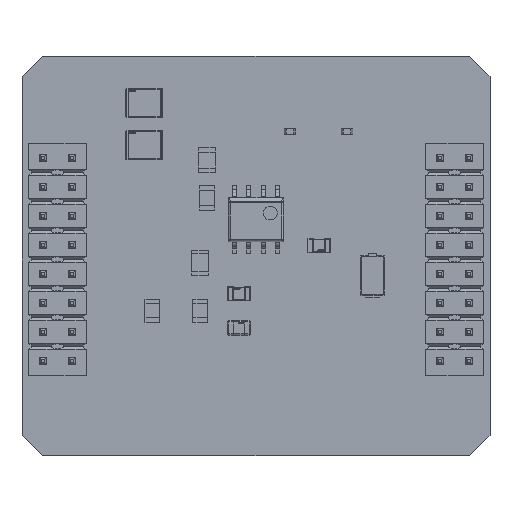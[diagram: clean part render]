
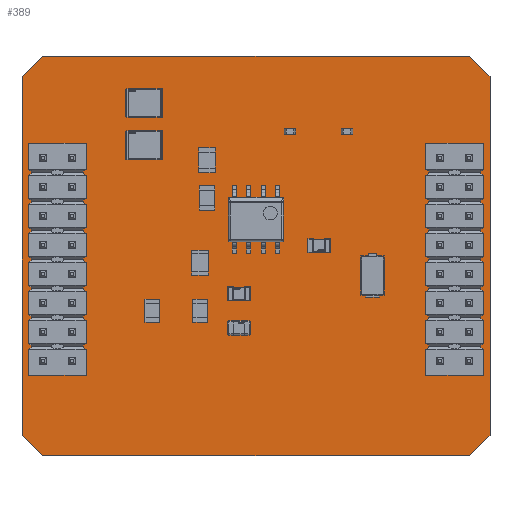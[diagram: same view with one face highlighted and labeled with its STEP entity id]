
A CAD part, top view. The second image highlights one B-rep face of the part: STEP entity #389.
In plain terms, the highlighted planar face has unit normal (0, 0, 1).
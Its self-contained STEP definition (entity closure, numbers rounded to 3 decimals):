
#132 = VERTEX_POINT('',#133);
#133 = CARTESIAN_POINT('',(-18.7,-15.7,0.411));
#139 = EDGE_CURVE('',#132,#140,#142,.T.);
#140 = VERTEX_POINT('',#141);
#141 = CARTESIAN_POINT('',(-20.5,-13.9,0.411));
#142 = LINE('',#143,#144);
#143 = CARTESIAN_POINT('',(-18.7,-15.7,0.411));
#144 = VECTOR('',#145,1.);
#145 = DIRECTION('',(-0.707,0.707,0.));
#170 = EDGE_CURVE('',#140,#171,#173,.T.);
#171 = VERTEX_POINT('',#172);
#172 = CARTESIAN_POINT('',(-20.5,17.5,0.411));
#173 = LINE('',#174,#175);
#174 = CARTESIAN_POINT('',(-20.5,-13.9,0.411));
#175 = VECTOR('',#176,1.);
#176 = DIRECTION('',(0.,1.,0.));
#201 = EDGE_CURVE('',#171,#202,#204,.T.);
#202 = VERTEX_POINT('',#203);
#203 = CARTESIAN_POINT('',(-18.7,19.3,0.411));
#204 = LINE('',#205,#206);
#205 = CARTESIAN_POINT('',(-20.5,17.5,0.411));
#206 = VECTOR('',#207,1.);
#207 = DIRECTION('',(0.707,0.707,0.));
#232 = EDGE_CURVE('',#202,#233,#235,.T.);
#233 = VERTEX_POINT('',#234);
#234 = CARTESIAN_POINT('',(18.7,19.3,0.411));
#235 = LINE('',#236,#237);
#236 = CARTESIAN_POINT('',(-18.7,19.3,0.411));
#237 = VECTOR('',#238,1.);
#238 = DIRECTION('',(1.,0.,0.));
#263 = EDGE_CURVE('',#233,#264,#266,.T.);
#264 = VERTEX_POINT('',#265);
#265 = CARTESIAN_POINT('',(20.5,17.5,0.411));
#266 = LINE('',#267,#268);
#267 = CARTESIAN_POINT('',(18.7,19.3,0.411));
#268 = VECTOR('',#269,1.);
#269 = DIRECTION('',(0.707,-0.707,0.));
#294 = EDGE_CURVE('',#264,#295,#297,.T.);
#295 = VERTEX_POINT('',#296);
#296 = CARTESIAN_POINT('',(20.5,-13.9,0.411));
#297 = LINE('',#298,#299);
#298 = CARTESIAN_POINT('',(20.5,17.5,0.411));
#299 = VECTOR('',#300,1.);
#300 = DIRECTION('',(0.,-1.,0.));
#325 = EDGE_CURVE('',#295,#326,#328,.T.);
#326 = VERTEX_POINT('',#327);
#327 = CARTESIAN_POINT('',(18.7,-15.7,0.411));
#328 = LINE('',#329,#330);
#329 = CARTESIAN_POINT('',(20.5,-13.9,0.411));
#330 = VECTOR('',#331,1.);
#331 = DIRECTION('',(-0.707,-0.707,0.));
#356 = EDGE_CURVE('',#326,#132,#357,.T.);
#357 = LINE('',#358,#359);
#358 = CARTESIAN_POINT('',(18.7,-15.7,0.411));
#359 = VECTOR('',#360,1.);
#360 = DIRECTION('',(-1.,0.,0.));
#389 = ADVANCED_FACE('',(#390),#400,.T.);
#390 = FACE_BOUND('',#391,.F.);
#391 = EDGE_LOOP('',(#392,#393,#394,#395,#396,#397,#398,#399));
#392 = ORIENTED_EDGE('',*,*,#139,.T.);
#393 = ORIENTED_EDGE('',*,*,#170,.T.);
#394 = ORIENTED_EDGE('',*,*,#201,.T.);
#395 = ORIENTED_EDGE('',*,*,#232,.T.);
#396 = ORIENTED_EDGE('',*,*,#263,.T.);
#397 = ORIENTED_EDGE('',*,*,#294,.T.);
#398 = ORIENTED_EDGE('',*,*,#325,.T.);
#399 = ORIENTED_EDGE('',*,*,#356,.T.);
#400 = PLANE('',#401);
#401 = AXIS2_PLACEMENT_3D('',#402,#403,#404);
#402 = CARTESIAN_POINT('',(-18.7,-15.7,0.411));
#403 = DIRECTION('',(0.,0.,1.));
#404 = DIRECTION('',(1.,0.,0.));
